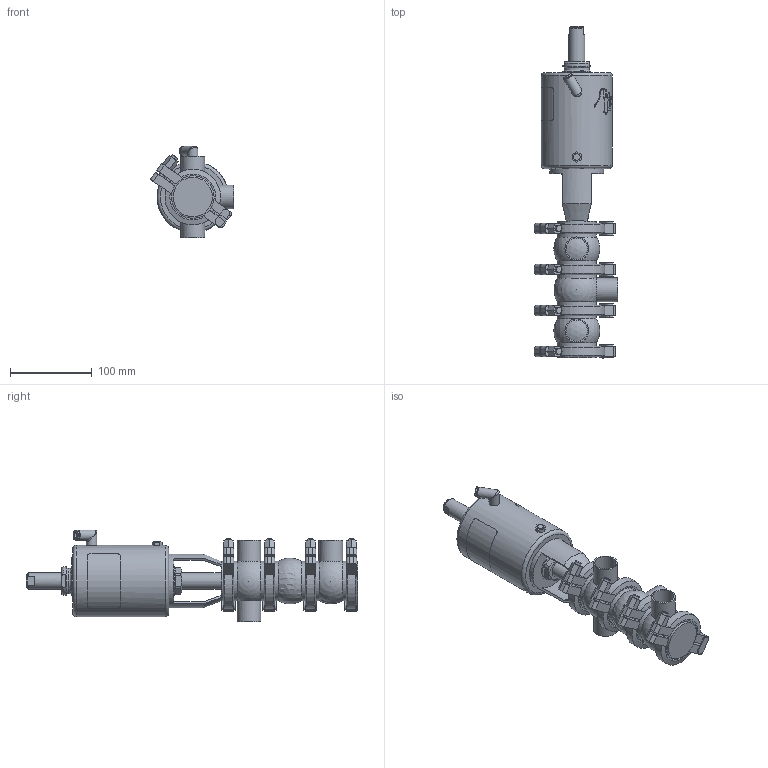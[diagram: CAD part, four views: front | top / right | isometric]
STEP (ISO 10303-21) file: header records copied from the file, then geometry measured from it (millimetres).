
FILE_DESCRIPTION (( 'STEP AP214' ), '1' );
FILE_NAME ('INNOVA L P W DIN 025 T1 AS NC_10.241.16.0016.STEP', '2024-08-07T07:39:46', ( '' ), ( '' ), 'SwSTEP 2.0', 'SolidWorks 2023', '' );
FILE_SCHEMA (( 'AUTOMOTIVE_DESIGN' ));
Length unit declared in the file: millimetre
Products named in the file (7): 10.240.15.0001_DN 025; 10.240.15.0006_DIN 025; 10.240.15.0010_DN 025; INNOVA L P W DIN 025 T1 AS NC_10.241.16.0016; 10.240.15.0014_T1 AS P180; 10.240.15.0007_DIN 025; 10.241.15.0001_DIN 025
Assembly tree (10 placements, depth 2):
  INNOVA L P W DIN 025 T1 AS NC_10.241.16.0016
    10.240.15.0007_DIN 025
    10.240.15.0006_DIN 025  x2
    10.240.15.0010_DN 025
    10.240.15.0014_T1 AS P180
    10.240.15.0001_DN 025  x4
    10.241.15.0001_DIN 025
Bounding box: 101.94 x 405.09 x 112.25 mm (x, y, z)
Volume: 1260962.7 mm3; surface area: 201139.6 mm2
Topology: 11 solids, 11 shells, 542 faces, 1443 edges, 938 vertices
Faces by surface type: plane 261, cylinder 139, bspline 80, cone 50, sphere 8, torus 4
Full cylindrical faces by diameter (mm): 6.15 x1, 8 x9, 8.5 x1, 10.5 x1, 12.5 x3, 16 x1, 20 x2, 26 x4, 29 x4, 31 x1, 34.5 x2, 36.5 x1, 48 x8, 59.7 x8, 66 x1, 87 x1
Entity records: 19919 total; most frequent: CARTESIAN_POINT 10298, ORIENTED_EDGE 1674, DIRECTION 1317, EDGE_CURVE 837, VERTEX_POINT 576, AXIS2_PLACEMENT_3D 510, EDGE_LOOP 431, FACE_OUTER_BOUND 391
